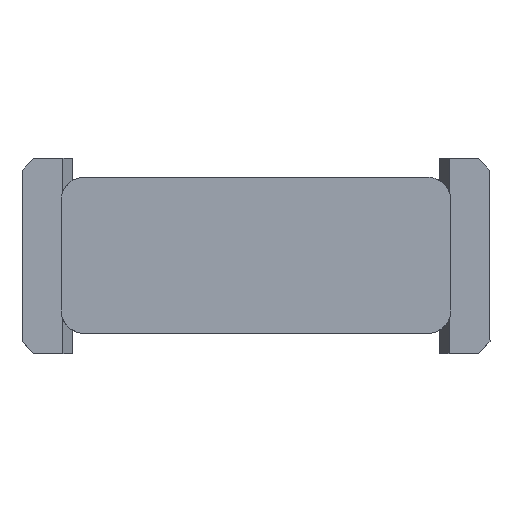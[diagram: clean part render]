
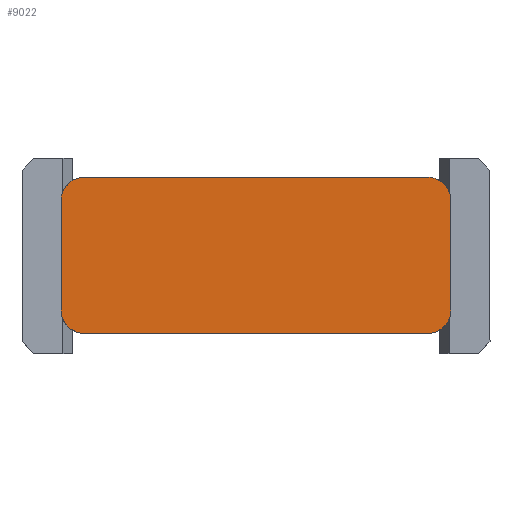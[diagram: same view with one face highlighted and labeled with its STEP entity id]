
A CAD part, top view. The second image highlights one B-rep face of the part: STEP entity #9022.
In plain terms, the highlighted free-form (B-spline) face has degree [1, 1] with [2, 2] control points.
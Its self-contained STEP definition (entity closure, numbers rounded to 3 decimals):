
#26 = B_SPLINE_CURVE_WITH_KNOTS ( 'NONE', 1,
 ( #4776, #15576 ),
 .UNSPECIFIED., .F., .F.,
 ( 2, 2 ),
 ( 0., 1. ),
 .UNSPECIFIED. ) ;
#419 = CARTESIAN_POINT ( 'NONE',  ( -66.395, -0.656, -39.693 ) ) ;
#2180 = VERTEX_POINT ( 'NONE', #32725 ) ;
#2599 = CARTESIAN_POINT ( 'NONE',  ( -56.995, -0.056, -39.693 ) ) ;
#3684 = EDGE_CURVE ( 'NONE', #15820, #18647, #26, .T. ) ;
#3867 = CARTESIAN_POINT ( 'NONE',  ( -56.395, -3.456, -39.693 ) ) ;
#4210 = CARTESIAN_POINT ( 'NONE',  ( -66.395, -0.656, -39.693 ) ) ;
#4776 = CARTESIAN_POINT ( 'NONE',  ( -56.395, -0.656, -39.693 ) ) ;
#4880 = ORIENTED_EDGE ( 'NONE', *, *, #24992, .F. ) ;
#5900 = VERTEX_POINT ( 'NONE', #7830 ) ;
#5958 = CARTESIAN_POINT ( 'NONE',  ( -65.795, -4.056, -39.693 ) ) ;
#6444 = CARTESIAN_POINT ( 'NONE',  ( -56.395, -0.056, -39.693 ) ) ;
#6947 = ORIENTED_EDGE ( 'NONE', *, *, #34592, .F. ) ;
#7045 = CARTESIAN_POINT ( 'NONE',  ( -56.995, -4.056, -39.693 ) ) ;
#7830 = CARTESIAN_POINT ( 'NONE',  ( -56.995, -0.056, -39.693 ) ) ;
#8150 = ORIENTED_EDGE ( 'NONE', *, *, #24344, .F. ) ;
#8433 =( BOUNDED_CURVE ( )  B_SPLINE_CURVE ( 3, ( #21240, #29554, #26207, #34163 ),
 .UNSPECIFIED., .F., .F. ) 
 B_SPLINE_CURVE_WITH_KNOTS ( ( 4, 4 ),
 ( 0., 1. ),
 .UNSPECIFIED. ) 
 CURVE ( )  GEOMETRIC_REPRESENTATION_ITEM ( )  RATIONAL_B_SPLINE_CURVE ( ( 1., 0.805, 0.805, 1. ) ) 
 REPRESENTATION_ITEM ( '' )  );
#9022 = ADVANCED_FACE ( 'NONE', ( #28737 ), #11349, .T. ) ;
#9634 = CARTESIAN_POINT ( 'NONE',  ( -56.995, -0.056, -39.693 ) ) ;
#10707 =( BOUNDED_CURVE ( )  B_SPLINE_CURVE ( 3, ( #3867, #14671, #25457, #7045 ),
 .UNSPECIFIED., .F., .F. ) 
 B_SPLINE_CURVE_WITH_KNOTS ( ( 4, 4 ),
 ( 0., 1. ),
 .UNSPECIFIED. ) 
 CURVE ( )  GEOMETRIC_REPRESENTATION_ITEM ( )  RATIONAL_B_SPLINE_CURVE ( ( 1., 0.805, 0.805, 1. ) ) 
 REPRESENTATION_ITEM ( '' )  );
#11274 = CARTESIAN_POINT ( 'NONE',  ( -65.795, -0.056, -39.693 ) ) ;
#11349 = B_SPLINE_SURFACE_WITH_KNOTS ( 'NONE', 1, 1, ( 
 ( #6444, #20588 ),
 ( #33863, #26073 ) ),
 .UNSPECIFIED., .F., .F., .F.,
 ( 2, 2 ),
 ( 2, 2 ),
 ( 0., 1. ),
 ( 0., 1. ),
 .UNSPECIFIED. ) ;
#11352 = CARTESIAN_POINT ( 'NONE',  ( -66.395, -3.456, -39.693 ) ) ;
#14671 = CARTESIAN_POINT ( 'NONE',  ( -56.395, -3.808, -39.693 ) ) ;
#14845 = CARTESIAN_POINT ( 'NONE',  ( -56.995, -4.056, -39.693 ) ) ;
#15576 = CARTESIAN_POINT ( 'NONE',  ( -56.395, -3.456, -39.693 ) ) ;
#15604 = VERTEX_POINT ( 'NONE', #5958 ) ;
#15820 = VERTEX_POINT ( 'NONE', #20805 ) ;
#15995 = ORIENTED_EDGE ( 'NONE', *, *, #26983, .F. ) ;
#16059 = CARTESIAN_POINT ( 'NONE',  ( -65.795, -4.056, -39.693 ) ) ;
#16166 = EDGE_CURVE ( 'NONE', #5900, #15820, #29633, .T. ) ;
#16654 = VERTEX_POINT ( 'NONE', #32557 ) ;
#16834 = ORIENTED_EDGE ( 'NONE', *, *, #16166, .F. ) ;
#17575 = B_SPLINE_CURVE_WITH_KNOTS ( 'NONE', 1,
 ( #14845, #25289 ),
 .UNSPECIFIED., .F., .F.,
 ( 2, 2 ),
 ( 0., 1. ),
 .UNSPECIFIED. ) ;
#17828 = ORIENTED_EDGE ( 'NONE', *, *, #30370, .F. ) ;
#17866 = B_SPLINE_CURVE_WITH_KNOTS ( 'NONE', 1,
 ( #11274, #2599 ),
 .UNSPECIFIED., .F., .F.,
 ( 2, 2 ),
 ( 0., 1. ),
 .UNSPECIFIED. ) ;
#18647 = VERTEX_POINT ( 'NONE', #32837 ) ;
#18708 = CARTESIAN_POINT ( 'NONE',  ( -66.395, -3.456, -39.693 ) ) ;
#20446 = CARTESIAN_POINT ( 'NONE',  ( -56.644, -0.056, -39.693 ) ) ;
#20588 = CARTESIAN_POINT ( 'NONE',  ( -56.395, -4.056, -39.693 ) ) ;
#20805 = CARTESIAN_POINT ( 'NONE',  ( -56.395, -0.656, -39.693 ) ) ;
#21192 = CARTESIAN_POINT ( 'NONE',  ( -66.395, -3.808, -39.693 ) ) ;
#21240 = CARTESIAN_POINT ( 'NONE',  ( -66.395, -0.656, -39.693 ) ) ;
#21819 = CARTESIAN_POINT ( 'NONE',  ( -66.395, -3.456, -39.693 ) ) ;
#21822 = ORIENTED_EDGE ( 'NONE', *, *, #3684, .F. ) ;
#23011 = EDGE_LOOP ( 'NONE', ( #21822, #16834, #8150, #4880, #15995, #6947, #17828, #32576 ) ) ;
#24190 = EDGE_CURVE ( 'NONE', #18647, #2180, #10707, .T. ) ;
#24344 = EDGE_CURVE ( 'NONE', #16654, #5900, #17866, .T. ) ;
#24992 = EDGE_CURVE ( 'NONE', #30505, #16654, #8433, .T. ) ;
#25289 = CARTESIAN_POINT ( 'NONE',  ( -65.795, -4.056, -39.693 ) ) ;
#25457 = CARTESIAN_POINT ( 'NONE',  ( -56.644, -4.056, -39.693 ) ) ;
#25949 = B_SPLINE_CURVE_WITH_KNOTS ( 'NONE', 1,
 ( #21819, #419 ),
 .UNSPECIFIED., .F., .F.,
 ( 2, 2 ),
 ( 0., 1. ),
 .UNSPECIFIED. ) ;
#26073 = CARTESIAN_POINT ( 'NONE',  ( -66.395, -4.056, -39.693 ) ) ;
#26207 = CARTESIAN_POINT ( 'NONE',  ( -66.146, -0.056, -39.693 ) ) ;
#26983 = EDGE_CURVE ( 'NONE', #34405, #30505, #25949, .T. ) ;
#28290 =( BOUNDED_CURVE ( )  B_SPLINE_CURVE ( 3, ( #16059, #32348, #21192, #18708 ),
 .UNSPECIFIED., .F., .F. ) 
 B_SPLINE_CURVE_WITH_KNOTS ( ( 4, 4 ),
 ( 0., 1. ),
 .UNSPECIFIED. ) 
 CURVE ( )  GEOMETRIC_REPRESENTATION_ITEM ( )  RATIONAL_B_SPLINE_CURVE ( ( 1., 0.805, 0.805, 1. ) ) 
 REPRESENTATION_ITEM ( '' )  );
#28737 = FACE_OUTER_BOUND ( 'NONE', #23011, .T. ) ;
#28770 = CARTESIAN_POINT ( 'NONE',  ( -56.395, -0.305, -39.693 ) ) ;
#29554 = CARTESIAN_POINT ( 'NONE',  ( -66.395, -0.305, -39.693 ) ) ;
#29633 =( BOUNDED_CURVE ( )  B_SPLINE_CURVE ( 3, ( #9634, #20446, #28770, #31255 ),
 .UNSPECIFIED., .F., .F. ) 
 B_SPLINE_CURVE_WITH_KNOTS ( ( 4, 4 ),
 ( 0., 1. ),
 .UNSPECIFIED. ) 
 CURVE ( )  GEOMETRIC_REPRESENTATION_ITEM ( )  RATIONAL_B_SPLINE_CURVE ( ( 1., 0.805, 0.805, 1. ) ) 
 REPRESENTATION_ITEM ( '' )  );
#30370 = EDGE_CURVE ( 'NONE', #2180, #15604, #17575, .T. ) ;
#30505 = VERTEX_POINT ( 'NONE', #4210 ) ;
#31255 = CARTESIAN_POINT ( 'NONE',  ( -56.395, -0.656, -39.693 ) ) ;
#32348 = CARTESIAN_POINT ( 'NONE',  ( -66.146, -4.056, -39.693 ) ) ;
#32557 = CARTESIAN_POINT ( 'NONE',  ( -65.795, -0.056, -39.693 ) ) ;
#32576 = ORIENTED_EDGE ( 'NONE', *, *, #24190, .F. ) ;
#32725 = CARTESIAN_POINT ( 'NONE',  ( -56.995, -4.056, -39.693 ) ) ;
#32837 = CARTESIAN_POINT ( 'NONE',  ( -56.395, -3.456, -39.693 ) ) ;
#33863 = CARTESIAN_POINT ( 'NONE',  ( -66.395, -0.056, -39.693 ) ) ;
#34163 = CARTESIAN_POINT ( 'NONE',  ( -65.795, -0.056, -39.693 ) ) ;
#34405 = VERTEX_POINT ( 'NONE', #11352 ) ;
#34592 = EDGE_CURVE ( 'NONE', #15604, #34405, #28290, .T. ) ;
